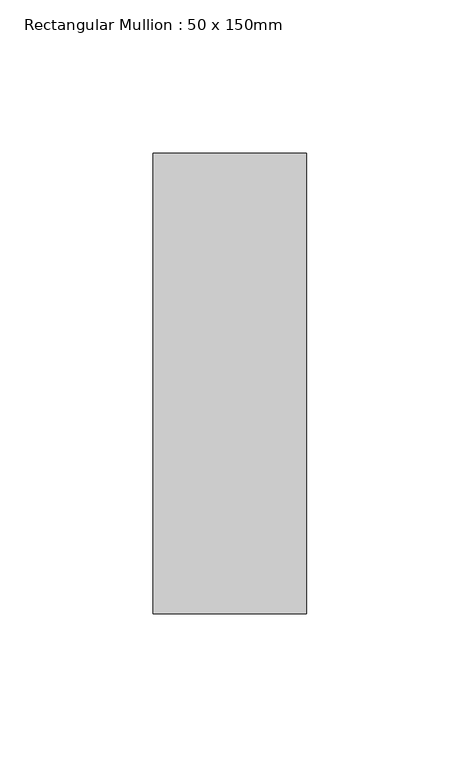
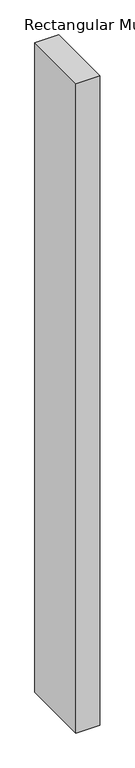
"""IFC4 building model written with IfcOpenShell, lengths in millimetres: member geometry, Rectangular Mullion : 50 x 150mm."""

from ifc_helpers import new_model, si_unit, frame, origin, place, context, project, spatial, polyline, outline, extrude, source, transform, mapped, element, save


def rectangular_mullion_50_x_150mm_ccbf48d0(model_context):
    return source(origin(), model_context, "Body", "SweptSolid", [
        extrude(outline(polyline([(25.0, 75.0), (25.0, -75.0), (-25.0, -75.0), (-25.0, 75.0), (25.0, 75.0)])), frame((0.0, 0.0, -1449.0), z_axis=(0.0, 0.0, 1.0), x_axis=(1.0, 0.0, 0.0)), (0.0, 0.0, 1.0), 1449.0),
    ])


if __name__ == "__main__":
    model = new_model("IFC4")
    model_context = context("Model", 3, world=origin())
    ifc_project = project(units=[si_unit("LENGTHUNIT", "METRE", prefix="MILLI")], contexts=[model_context])
    site = spatial("IfcSite", under=ifc_project)
    building = spatial("IfcBuilding", under=site)
    placement = place(None, origin())
    rectangular_mullion_50_x_150mm_shape = rectangular_mullion_50_x_150mm_ccbf48d0(model_context)
    element("IfcMember", 1, ObjectType="Rectangular Mullion : 50 x 150mm", at=placement, inside=building, context=model_context, shape_type="MappedRepresentation", body=[
        mapped(rectangular_mullion_50_x_150mm_shape, transform((0.0, 0.0, 0.0), x_axis=(1.0, 0.0, 0.0), y_axis=(0.0, 1.0, 0.0), z_axis=(0.0, 0.0, 1.0))),
    ])
    save(model, "model.ifc")
